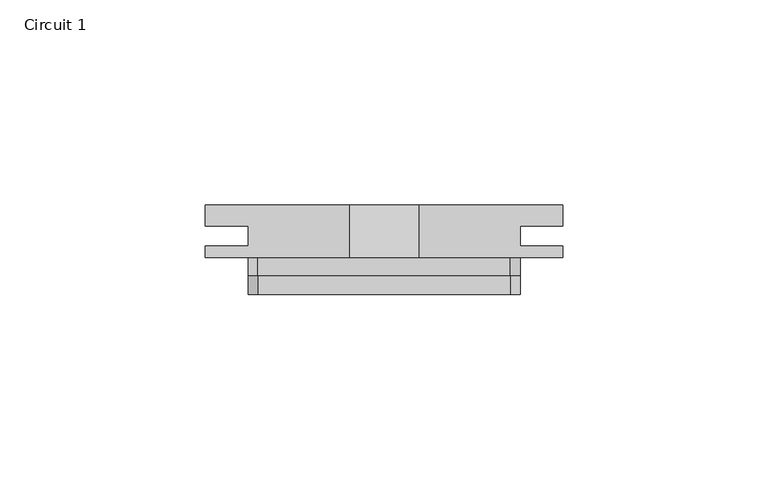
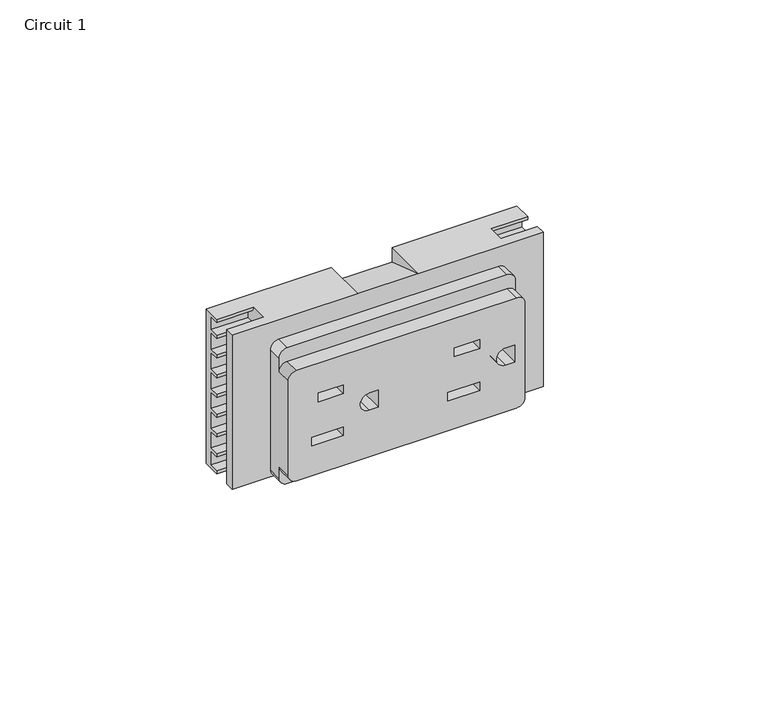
"""IFC4 building model written with IfcOpenShell, lengths in millimetres: furniture geometry, HON - Systems - Accelerate Duplex Receptacles : Circuit 1."""

from ifc_helpers import new_model, si_unit, frame, origin, place, context, project, spatial, polyline, circle_curve, faceted_brep, source, transform, mapped, element, save
from ifc_brep_helpers import plane_surface, cylinder_surface, revolved_surface, advanced_brep


def circuit_1_60441ec7(model_context):
    return source(origin(), model_context, "Body", "SolidModel", [
        faceted_brep([(43.4462126, -14.2112998, 675.3605936), (43.4462126, -9.0804999, 675.3605936), (8.5470999, -9.0804999, 675.3605936), (8.5470999, -21.7928028, 675.3605936), (43.4462126, -21.7928028, 675.3605936), (43.4462126, -19.0372998, 675.3605936), (33.1343011, -19.0372998, 675.3605936), (33.1343011, -14.2112998, 675.3605936), (-43.5229021, -9.0804999, 675.3605936), (-43.5229021, -14.2112998, 675.3605936), (-33.1343011, -14.2112998, 675.3605936), (-33.1343011, -19.0372998, 675.3605936), (-43.5229021, -19.0372998, 675.3605936), (-43.5229021, -21.7928028, 675.3605936), (-8.5217, -21.7928028, 675.3605936), (-8.5217, -9.0804999, 675.3605936), (43.4462126, -21.7928028, 629.6405645), (-43.5229021, -21.7928028, 629.6405645), (-43.5229021, -19.0372998, 629.6405645), (-33.1343011, -19.0372998, 629.6405645), (-33.1343011, -14.2112998, 629.6405645), (-43.5229021, -14.2112998, 629.6405645), (-43.5229021, -9.0804999, 629.6405645), (43.4462126, -9.0804999, 629.6405645), (43.4462126, -14.2112998, 629.6405645), (33.1343011, -14.2112998, 629.6405645), (33.1343011, -19.0372998, 629.6405645), (43.4462126, -19.0372998, 629.6405645), (-8.5217, -9.0804999, 670.9933456), (8.5470999, -9.0804999, 670.9933456), (-43.5229021, -14.2112998, 630.5296091), (-43.5229021, -11.3665005, 630.5296091), (-43.5229021, -11.3665005, 634.6571188), (-43.5229021, -14.2112998, 634.6571188), (-43.5229021, -14.2112998, 635.5460907), (-43.5229021, -11.3665005, 635.5460907), (-43.5229021, -11.3665005, 640.4991314), (-43.5229021, -14.2112998, 640.4991314), (-43.5229021, -14.2112998, 641.3881033), (-43.5229021, -11.3665005, 641.3881033), (-43.5229021, -11.3665005, 646.3410713), (-43.5229021, -14.2112998, 646.3410713), (-43.5229021, -14.2112998, 647.2301159), (-43.5229021, -11.3665005, 647.2301159), (-43.5229021, -11.3665005, 652.1830839), (-43.5229021, -14.2112998, 652.1830839), (-43.5229021, -14.2112998, 653.0721285), (-43.5229021, -11.3665005, 653.0721285), (-43.5229021, -11.3665005, 658.0250965), (-43.5229021, -14.2112998, 658.0250965), (-43.5229021, -14.2112998, 658.9140684), (-43.5229021, -11.3665005, 658.9140684), (-43.5229021, -11.3665005, 663.8671091), (-43.5229021, -14.2112998, 663.8671091), (-43.5229021, -14.2112998, 664.756081), (-43.5229021, -11.3665005, 664.756081), (-43.5229021, -11.3665005, 669.7091217), (-43.5229021, -14.2112998, 669.7091217), (-43.5229021, -14.2112998, 670.5980936), (-43.5229021, -11.3665005, 670.5980936), (-43.5229021, -11.3665005, 674.4716217), (-43.5229021, -14.2112998, 674.4716217), (43.4462126, -14.2112998, 674.4716217), (43.4462126, -11.3665005, 674.4716217), (43.4462126, -11.3665005, 670.5980936), (43.4462126, -14.2112998, 670.5980936), (43.4462126, -14.2112998, 669.7091217), (43.4462126, -11.3665005, 669.7091217), (43.4462126, -11.3665005, 664.756081), (43.4462126, -14.2112998, 664.756081), (43.4462126, -14.2112998, 663.8671091), (43.4462126, -11.3665005, 663.8671091), (43.4462126, -11.3665005, 658.9140684), (43.4462126, -14.2112998, 658.9140684), (43.4462126, -14.2112998, 658.0250965), (43.4462126, -11.3665005, 658.0250965), (43.4462126, -11.3665005, 653.0721285), (43.4462126, -14.2112998, 653.0721285), (43.4462126, -14.2112998, 652.1830839), (43.4462126, -11.3665005, 652.1830839), (43.4462126, -11.3665005, 647.2301159), (43.4462126, -14.2112998, 647.2301159), (43.4462126, -14.2112998, 646.3410713), (43.4462126, -11.3665005, 646.3410713), (43.4462126, -11.3665005, 641.3881033), (43.4462126, -14.2112998, 641.3881033), (43.4462126, -14.2112998, 640.4991314), (43.4462126, -11.3665005, 640.4991314), (43.4462126, -11.3665005, 635.5460907), (43.4462126, -14.2112998, 635.5460907), (43.4462126, -14.2112998, 634.6571188), (43.4462126, -11.3665005, 634.6571188), (43.4462126, -11.3665005, 630.5296091), (43.4462126, -14.2112998, 630.5296091), (33.1343011, -14.2112998, 630.5296091), (33.1343011, -11.3665005, 630.5296091), (33.1343011, -11.3665005, 634.6571188), (33.1343011, -14.2112998, 634.6571188), (33.1343011, -14.2112998, 635.5460907), (33.1343011, -11.3665005, 635.5460907), (33.1343011, -11.3665005, 640.4991314), (33.1343011, -14.2112998, 640.4991314), (33.1343011, -14.2112998, 641.3881033), (33.1343011, -11.3665005, 641.3881033), (33.1343011, -11.3665005, 646.3410713), (33.1343011, -14.2112998, 646.3410713), (33.1343011, -14.2112998, 647.2301159), (33.1343011, -11.3665005, 647.2301159), (33.1343011, -11.3665005, 652.1830839), (33.1343011, -14.2112998, 652.1830839), (33.1343011, -14.2112998, 653.0721285), (33.1343011, -11.3665005, 653.0721285), (33.1343011, -11.3665005, 658.0250965), (33.1343011, -14.2112998, 658.0250965), (33.1343011, -14.2112998, 658.9140684), (33.1343011, -11.3665005, 658.9140684), (33.1343011, -11.3665005, 663.8671091), (33.1343011, -14.2112998, 663.8671091), (33.1343011, -14.2112998, 664.756081), (33.1343011, -11.3665005, 664.756081), (33.1343011, -11.3665005, 669.7091217), (33.1343011, -14.2112998, 669.7091217), (33.1343011, -14.2112998, 670.5980936), (33.1343011, -11.3665005, 670.5980936), (33.1343011, -11.3665005, 674.4716217), (33.1343011, -14.2112998, 674.4716217), (-33.1343011, -14.2112998, 674.4716217), (-33.1343011, -11.3665005, 674.4716217), (-33.1343011, -11.3665005, 670.5980936), (-33.1343011, -14.2112998, 670.5980936), (-33.1343011, -14.2112998, 669.7091217), (-33.1343011, -11.3665005, 669.7091217), (-33.1343011, -11.3665005, 664.756081), (-33.1343011, -14.2112998, 664.756081), (-33.1343011, -14.2112998, 663.8671091), (-33.1343011, -11.3665005, 663.8671091), (-33.1343011, -11.3665005, 658.9140684), (-33.1343011, -14.2112998, 658.9140684), (-33.1343011, -14.2112998, 658.0250965), (-33.1343011, -11.3665005, 658.0250965), (-33.1343011, -11.3665005, 653.0721285), (-33.1343011, -14.2112998, 653.0721285), (-33.1343011, -14.2112998, 652.1830839), (-33.1343011, -11.3665005, 652.1830839), (-33.1343011, -11.3665005, 647.2301159), (-33.1343011, -14.2112998, 647.2301159), (-33.1343011, -14.2112998, 646.3410713), (-33.1343011, -11.3665005, 646.3410713), (-33.1343011, -11.3665005, 641.3881033), (-33.1343011, -14.2112998, 641.3881033), (-33.1343011, -14.2112998, 640.4991314), (-33.1343011, -11.3665005, 640.4991314), (-33.1343011, -11.3665005, 635.5460907), (-33.1343011, -14.2112998, 635.5460907), (-33.1343011, -14.2112998, 634.6571188), (-33.1343011, -11.3665005, 634.6571188), (-33.1343011, -11.3665005, 630.5296091), (-33.1343011, -14.2112998, 630.5296091)], [[[0, 1, 2, 3, 4, 5, 6, 7]], [[8, 9, 10, 11, 12, 13, 14, 15]], [[16, 17, 18, 19, 20, 21, 22, 23, 24, 25, 26, 27]], [[23, 22, 8, 15, 28, 29, 2, 1]], [[8, 22, 21, 30, 31, 32, 33, 34, 35, 36, 37, 38, 39, 40, 41, 42, 43, 44, 45, 46, 47, 48, 49, 50, 51, 52, 53, 54, 55, 56, 57, 58, 59, 60, 61, 9]], [[17, 13, 12, 18]], [[17, 16, 4, 3, 14, 13]], [[23, 1, 0, 62, 63, 64, 65, 66, 67, 68, 69, 70, 71, 72, 73, 74, 75, 76, 77, 78, 79, 80, 81, 82, 83, 84, 85, 86, 87, 88, 89, 90, 91, 92, 93, 24]], [[4, 16, 27, 5]], [[94, 95, 96, 97, 98, 99, 100, 101, 102, 103, 104, 105, 106, 107, 108, 109, 110, 111, 112, 113, 114, 115, 116, 117, 118, 119, 120, 121, 122, 123, 124, 125, 7, 6, 26, 25]], [[94, 25, 24, 93]], [[95, 94, 93, 92]], [[96, 95, 92, 91]], [[97, 96, 91, 90]], [[98, 97, 90, 89]], [[99, 98, 89, 88]], [[100, 99, 88, 87]], [[101, 100, 87, 86]], [[102, 101, 86, 85]], [[103, 102, 85, 84]], [[104, 103, 84, 83]], [[105, 104, 83, 82]], [[106, 105, 82, 81]], [[107, 106, 81, 80]], [[108, 107, 80, 79]], [[109, 108, 79, 78]], [[110, 109, 78, 77]], [[111, 110, 77, 76]], [[112, 111, 76, 75]], [[113, 112, 75, 74]], [[114, 113, 74, 73]], [[115, 114, 73, 72]], [[116, 115, 72, 71]], [[117, 116, 71, 70]], [[118, 117, 70, 69]], [[119, 118, 69, 68]], [[120, 119, 68, 67]], [[121, 120, 67, 66]], [[122, 121, 66, 65]], [[123, 122, 65, 64]], [[124, 123, 64, 63]], [[125, 124, 63, 62]], [[7, 125, 62, 0]], [[26, 6, 5, 27]], [[126, 127, 128, 129, 130, 131, 132, 133, 134, 135, 136, 137, 138, 139, 140, 141, 142, 143, 144, 145, 146, 147, 148, 149, 150, 151, 152, 153, 154, 155, 156, 157, 20, 19, 11, 10]], [[20, 157, 30, 21]], [[157, 156, 31, 30]], [[156, 155, 32, 31]], [[155, 154, 33, 32]], [[154, 153, 34, 33]], [[153, 152, 35, 34]], [[152, 151, 36, 35]], [[151, 150, 37, 36]], [[150, 149, 38, 37]], [[149, 148, 39, 38]], [[148, 147, 40, 39]], [[147, 146, 41, 40]], [[146, 145, 42, 41]], [[145, 144, 43, 42]], [[144, 143, 44, 43]], [[143, 142, 45, 44]], [[142, 141, 46, 45]], [[141, 140, 47, 46]], [[140, 139, 48, 47]], [[139, 138, 49, 48]], [[138, 137, 50, 49]], [[137, 136, 51, 50]], [[136, 135, 52, 51]], [[135, 134, 53, 52]], [[134, 133, 54, 53]], [[133, 132, 55, 54]], [[132, 131, 56, 55]], [[131, 130, 57, 56]], [[130, 129, 58, 57]], [[129, 128, 59, 58]], [[128, 127, 60, 59]], [[127, 126, 61, 60]], [[126, 10, 9, 61]], [[11, 19, 18, 12]], [[29, 3, 2]], [[14, 28, 15]], [[3, 29, 28, 14]]]),
        advanced_brep(
        [(33.1343011, -30.7975002, 635.4825976), (33.1343011, -30.7975002, 663.4987972), (30.848301, -30.7975002, 665.7847973), (-30.8229006, -30.7975002, 665.7847973), (-33.1089007, -30.7975002, 663.4987972), (-33.1089007, -30.7975002, 635.4825976), (-30.8229006, -30.7975002, 633.1965975), (30.848301, -30.7975002, 633.1965975), (-17.6657004, -30.7975002, 657.0218147), (-17.6657004, -30.7975002, 654.4817808), (-24.7777004, -30.7975002, 654.4817808), (-24.7777004, -30.7975002, 657.0218147), (-17.6657004, -30.7975002, 644.499614), (-17.6657004, -30.7975002, 641.95958), (-26.555701, -30.7975002, 641.95958), (-26.555701, -30.7975002, 644.499614), (20.4342996, -30.7975002, 644.499614), (20.4342996, -30.7975002, 641.95958), (11.5443001, -30.7975002, 641.95958), (11.5443001, -30.7975002, 644.499614), (20.4342996, -30.7975002, 657.0218147), (20.4342996, -30.7975002, 654.4817808), (13.3222996, -30.7975002, 654.4817808), (13.3222996, -30.7975002, 657.0218147), (-7.8486, -30.7975002, 646.9506998), (-10.3885999, -30.7975002, 646.9506998), (-10.3885999, -30.7975002, 652.030695), (-7.8486, -30.7975002, 652.030695), (30.3047409, -30.7975002, 646.9506998), (27.764741, -30.7975002, 646.9506998), (27.764741, -30.7975002, 652.030695), (30.3047409, -30.7975002, 652.030695), (6.5912997, -21.8097791, 629.6405645), (4.9403002, -21.8097791, 631.2916265), (-4.9148997, -21.8097791, 631.2916265), (-6.5658999, -21.8097791, 629.6405645), (-30.766319, -21.8097791, 629.6405645), (-33.1089007, -21.8097791, 631.9831462), (-33.1089007, -21.8097791, 667.5226532), (-30.7319642, -21.8097791, 669.8995897), (30.7248429, -21.8097791, 669.8995897), (33.1343011, -21.8097791, 667.4901315), (33.1343011, -21.8097791, 631.9582923), (30.8165733, -21.8097791, 629.6405645), (-17.6657004, -21.8097791, 657.0218147), (-24.7777004, -21.8097791, 657.0218147), (-24.7777004, -21.8097791, 654.4817808), (-17.6657004, -21.8097791, 654.4817808), (-17.6657004, -21.8097791, 644.499614), (-26.555701, -21.8097791, 644.499614), (-26.555701, -21.8097791, 641.95958), (-17.6657004, -21.8097791, 641.95958), (20.4342996, -21.8097791, 644.499614), (11.5443001, -21.8097791, 644.499614), (11.5443001, -21.8097791, 641.95958), (20.4342996, -21.8097791, 641.95958), (20.4342996, -21.8097791, 657.0218147), (13.3222996, -21.8097791, 657.0218147), (13.3222996, -21.8097791, 654.4817808), (20.4342996, -21.8097791, 654.4817808), (-7.8486, -21.8097791, 646.9506998), (-7.8486, -21.8097791, 652.030695), (-10.3885999, -21.8097791, 652.030695), (-10.3885999, -21.8097791, 646.9506998), (30.3047409, -21.8097791, 646.9506998), (30.3047409, -21.8097791, 652.030695), (27.764741, -21.8097791, 652.030695), (27.764741, -21.8097791, 646.9506998), (30.8165733, -26.2255, 629.6405645), (6.5912997, -26.2255, 629.6405645), (33.1343011, -26.2255, 631.9582923), (33.1343011, -26.2255, 667.4901315), (33.1343011, -26.2255, 663.4987972), (33.1343011, -26.2255, 635.4825976), (30.7248429, -26.2255, 669.8995897), (-30.7319642, -26.2255, 669.8995897), (-33.1089007, -26.2255, 667.5226532), (-33.1089007, -26.2255, 631.9831462), (-33.1089007, -26.2255, 635.4825976), (-33.1089007, -26.2255, 663.4987972), (-30.766319, -26.2255, 629.6405645), (-6.5658999, -26.2255, 629.6405645), (-4.9148997, -26.2255, 631.2916265), (4.9403002, -26.2255, 631.2916265), (30.848301, -26.2255, 665.7847973), (-30.8229006, -26.2255, 665.7847973), (-30.8229006, -26.2255, 633.1965975), (30.848301, -26.2255, 633.1965975)],
        [
            (0, 1),
            (1, 2, circle_curve(frame((30.848301, -30.7975002, 663.4987972), z_axis=(0.0, -1.0, 0.0), x_axis=(1.0, 0.0, 0.0)), 2.2860001)),
            (2, 3),
            (3, 4, circle_curve(frame((-30.8229006, -30.7975002, 663.4987972), z_axis=(0.0, -1.0, 0.0), x_axis=(1.0, 0.0, 0.0)), 2.2860001)),
            (4, 5),
            (5, 6, circle_curve(frame((-30.8229006, -30.7975002, 635.4825976), z_axis=(0.0, -1.0, 0.0), x_axis=(1.0, 0.0, 0.0)), 2.2860001)),
            (6, 7),
            (7, 0, circle_curve(frame((30.848301, -30.7975002, 635.4825976), z_axis=(0.0, -1.0, 0.0), x_axis=(1.0, 0.0, 0.0)), 2.2860001)),
            (8, 9),
            (9, 10),
            (10, 11),
            (11, 8),
            (12, 13),
            (13, 14),
            (14, 15),
            (15, 12),
            (16, 17),
            (17, 18),
            (18, 19),
            (19, 16),
            (20, 21),
            (21, 22),
            (22, 23),
            (23, 20),
            (24, 25),
            (25, 26, circle_curve(frame((-10.3885999, -30.7975002, 649.4906974), z_axis=(0.0, 1.0, 0.0), x_axis=(1.0, 0.0, 0.0)), 2.5399976)),
            (26, 27),
            (27, 24),
            (28, 29),
            (29, 30, circle_curve(frame((27.764741, -30.7975002, 649.4906974), z_axis=(0.0, 1.0, 0.0), x_axis=(1.0, 0.0, 0.0)), 2.5399976)),
            (30, 31),
            (31, 28),
            (32, 33),
            (33, 34),
            (34, 35),
            (35, 36),
            (36, 37, circle_curve(frame((-30.766319, -21.8097791, 631.9831462), z_axis=(0.0, 1.0, 0.0), x_axis=(1.0, 0.0, 0.0)), 2.3425817)),
            (37, 38),
            (38, 39, circle_curve(frame((-30.7319642, -21.8097791, 667.5226532), z_axis=(0.0, 1.0, 0.0), x_axis=(1.0, 0.0, 0.0)), 2.3769365)),
            (39, 40),
            (40, 41, circle_curve(frame((30.7248429, -21.8097791, 667.4901315), z_axis=(0.0, 1.0, 0.0), x_axis=(1.0, 0.0, 0.0)), 2.4094582)),
            (41, 42),
            (42, 43, circle_curve(frame((30.8165733, -21.8097791, 631.9582923), z_axis=(0.0, 1.0, 0.0), x_axis=(1.0, 0.0, 0.0)), 2.3177278)),
            (43, 32),
            (44, 45),
            (45, 46),
            (46, 47),
            (47, 44),
            (48, 49),
            (49, 50),
            (50, 51),
            (51, 48),
            (52, 53),
            (53, 54),
            (54, 55),
            (55, 52),
            (56, 57),
            (57, 58),
            (58, 59),
            (59, 56),
            (60, 61),
            (61, 62),
            (62, 63, circle_curve(frame((-10.3885999, -21.8097791, 649.4906974), z_axis=(0.0, -1.0, 0.0), x_axis=(1.0, 0.0, 0.0)), 2.5399976)),
            (63, 60),
            (64, 65),
            (65, 66),
            (66, 67, circle_curve(frame((27.764741, -21.8097791, 649.4906974), z_axis=(0.0, -1.0, 0.0), x_axis=(1.0, 0.0, 0.0)), 2.5399976)),
            (67, 64),
            (43, 68),
            (68, 69),
            (69, 32),
            (42, 70),
            (70, 68, circle_curve(frame((30.8165733, -26.2255, 631.9582923), z_axis=(0.0, 1.0, 0.0), x_axis=(1.0, 0.0, 0.0)), 2.3177278)),
            (41, 71),
            (71, 72),
            (72, 1),
            (0, 73),
            (73, 70),
            (40, 74),
            (74, 71, circle_curve(frame((30.7248429, -26.2255, 667.4901315), z_axis=(0.0, 1.0, 0.0), x_axis=(1.0, 0.0, 0.0)), 2.4094582)),
            (39, 75),
            (75, 74),
            (38, 76),
            (76, 75, circle_curve(frame((-30.7319642, -26.2255, 667.5226532), z_axis=(0.0, 1.0, 0.0), x_axis=(1.0, 0.0, 0.0)), 2.3769365)),
            (37, 77),
            (77, 78),
            (78, 5),
            (4, 79),
            (79, 76),
            (36, 80),
            (80, 77, circle_curve(frame((-30.766319, -26.2255, 631.9831462), z_axis=(0.0, 1.0, 0.0), x_axis=(1.0, 0.0, 0.0)), 2.3425817)),
            (35, 81),
            (81, 80),
            (34, 82),
            (82, 81),
            (33, 83),
            (83, 82),
            (69, 83),
            (8, 44),
            (47, 9),
            (46, 10),
            (45, 11),
            (12, 48),
            (51, 13),
            (50, 14),
            (49, 15),
            (16, 52),
            (55, 17),
            (54, 18),
            (53, 19),
            (20, 56),
            (59, 21),
            (58, 22),
            (57, 23),
            (24, 60),
            (63, 25),
            (62, 26),
            (61, 27),
            (28, 64),
            (67, 29),
            (66, 30),
            (65, 31),
            (84, 72, circle_curve(frame((30.848301, -26.2255, 663.4987972), z_axis=(0.0, 1.0, 0.0), x_axis=(1.0, 0.0, 0.0)), 2.2860001)),
            (79, 85, circle_curve(frame((-30.8229006, -26.2255, 663.4987972), z_axis=(0.0, 1.0, 0.0), x_axis=(1.0, 0.0, 0.0)), 2.2860001)),
            (85, 84),
            (86, 78, circle_curve(frame((-30.8229006, -26.2255, 635.4825976), z_axis=(0.0, 1.0, 0.0), x_axis=(1.0, 0.0, 0.0)), 2.2860001)),
            (73, 87, circle_curve(frame((30.848301, -26.2255, 635.4825976), z_axis=(0.0, 1.0, 0.0), x_axis=(1.0, 0.0, 0.0)), 2.2860001)),
            (87, 86),
            (84, 2),
            (3, 85),
            (86, 6),
            (7, 87),
        ],
        [
            plane_surface(frame((30.848301, -30.7975002, 629.6405645), z_axis=(0.0, -1.0, 0.0), x_axis=(1.0, 0.0, 0.0))),
            plane_surface(frame((30.848301, -21.8097791, 629.6405645), z_axis=(0.0, 1.0, 0.0), x_axis=(-1.0, 0.0, 0.0))),
            plane_surface(frame((6.5912997, -30.7975002, 629.6405645), z_axis=(0.0, 0.0, -1.0), x_axis=(0.0, 1.0, 0.0))),
            cylinder_surface(frame((30.8165733, -21.8097791, 631.9582923), z_axis=(0.0, -1.0, 0.0), x_axis=(1.0, 0.0, 0.0)), 2.3177278),
            plane_surface(frame((33.1343011, -30.7975002, 631.9582923), z_axis=(1.0, 0.0, 0.0), x_axis=(0.0, 1.0, 0.0))),
            cylinder_surface(frame((30.7248429, -21.8097791, 667.4901315), z_axis=(0.0, -1.0, 0.0), x_axis=(1.0, 0.0, 0.0)), 2.4094582),
            plane_surface(frame((30.7248429, -30.7975002, 669.8995897), z_axis=(0.0, 0.0, 1.0), x_axis=(0.0, 1.0, 0.0))),
            cylinder_surface(frame((-30.7319642, -21.8097791, 667.5226532), z_axis=(0.0, -1.0, 0.0), x_axis=(1.0, 0.0, 0.0)), 2.3769365),
            plane_surface(frame((-33.1089007, -30.7975002, 667.5226532), z_axis=(-1.0, 0.0, 0.0), x_axis=(0.0, 1.0, 0.0))),
            cylinder_surface(frame((-30.766319, -21.8097791, 631.9831462), z_axis=(0.0, -1.0, 0.0), x_axis=(1.0, 0.0, 0.0)), 2.3425817),
            plane_surface(frame((-30.766319, -30.7975002, 629.6405645), z_axis=(0.0, 0.0, -1.0), x_axis=(0.0, 1.0, 0.0))),
            plane_surface(frame((-6.5658999, -30.7975002, 629.6405645), z_axis=(0.7071200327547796, 0.0, -0.7070935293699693), x_axis=(0.0, 1.0, 0.0))),
            plane_surface(frame((-4.9148997, -30.7975002, 631.2916265), z_axis=(0.0, 0.0, -1.0), x_axis=(0.0, 1.0, 0.0))),
            plane_surface(frame((4.9403002, -30.7975002, 631.2916265), z_axis=(-0.7071201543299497, 0.0, -0.7070934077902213), x_axis=(0.0, 1.0, 0.0))),
            plane_surface(frame((-17.6657004, -30.7975002, 657.0218147), z_axis=(-1.0, 0.0, 0.0), x_axis=(0.0, 1.0, 0.0))),
            plane_surface(frame((-17.6657004, -30.7975002, 654.4817808), z_axis=(0.0, 0.0, 1.0), x_axis=(0.0, 1.0, 0.0))),
            plane_surface(frame((-24.7777004, -30.7975002, 654.4817808), z_axis=(1.0, 0.0, 0.0), x_axis=(0.0, 1.0, 0.0))),
            plane_surface(frame((-24.7777004, -30.7975002, 657.0218147), z_axis=(0.0, 0.0, -1.0), x_axis=(0.0, 1.0, 0.0))),
            plane_surface(frame((-17.6657004, -30.7975002, 644.499614), z_axis=(-1.0, 0.0, 0.0), x_axis=(0.0, 1.0, 0.0))),
            plane_surface(frame((-17.6657004, -30.7975002, 641.95958), z_axis=(0.0, 0.0, 1.0), x_axis=(0.0, 1.0, 0.0))),
            plane_surface(frame((-26.555701, -30.7975002, 641.95958), z_axis=(1.0, 0.0, 0.0), x_axis=(0.0, 1.0, 0.0))),
            plane_surface(frame((-26.555701, -30.7975002, 644.499614), z_axis=(0.0, 0.0, -1.0), x_axis=(0.0, 1.0, 0.0))),
            plane_surface(frame((20.4342996, -30.7975002, 644.499614), z_axis=(-1.0, 0.0, 0.0), x_axis=(0.0, 1.0, 0.0))),
            plane_surface(frame((20.4342996, -30.7975002, 641.95958), z_axis=(0.0, 0.0, 1.0), x_axis=(0.0, 1.0, 0.0))),
            plane_surface(frame((11.5443001, -30.7975002, 641.95958), z_axis=(1.0, 0.0, 0.0), x_axis=(0.0, 1.0, 0.0))),
            plane_surface(frame((11.5443001, -30.7975002, 644.499614), z_axis=(0.0, 0.0, -1.0), x_axis=(0.0, 1.0, 0.0))),
            plane_surface(frame((20.4342996, -30.7975002, 657.0218147), z_axis=(-1.0, 0.0, 0.0), x_axis=(0.0, 1.0, 0.0))),
            plane_surface(frame((20.4342996, -30.7975002, 654.4817808), z_axis=(0.0, 0.0, 1.0), x_axis=(0.0, 1.0, 0.0))),
            plane_surface(frame((13.3222996, -30.7975002, 654.4817808), z_axis=(1.0, 0.0, 0.0), x_axis=(0.0, 1.0, 0.0))),
            plane_surface(frame((13.3222996, -30.7975002, 657.0218147), z_axis=(0.0, 0.0, -1.0), x_axis=(0.0, 1.0, 0.0))),
            plane_surface(frame((-7.8486, -30.7975002, 646.9506998), z_axis=(0.0, 0.0, 1.0), x_axis=(0.0, 1.0, 0.0))),
            revolved_surface(polyline([(-7.848602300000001, -21.8097791, 649.4906974), (-7.848602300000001, -30.7975002, 649.4906974)]), (-10.3885999, 0.0, 649.4906974), (0.0, 1.0, 0.0)),
            plane_surface(frame((-10.3885999, -30.7975002, 652.030695), z_axis=(0.0, 0.0, -1.0), x_axis=(0.0, 1.0, 0.0))),
            plane_surface(frame((-7.8486, -30.7975002, 652.030695), z_axis=(-1.0, 0.0, 0.0), x_axis=(0.0, 1.0, 0.0))),
            plane_surface(frame((30.3047409, -30.7975002, 646.9506998), z_axis=(0.0, 0.0, 1.0), x_axis=(0.0, 1.0, 0.0))),
            revolved_surface(polyline([(30.3047386, -21.8097791, 649.4906974), (30.3047386, -30.7975002, 649.4906974)]), (27.764741, 0.0, 649.4906974), (0.0, 1.0, 0.0)),
            plane_surface(frame((27.764741, -30.7975002, 652.030695), z_axis=(0.0, 0.0, -1.0), x_axis=(0.0, 1.0, 0.0))),
            plane_surface(frame((30.3047409, -30.7975002, 652.030695), z_axis=(-1.0, 0.0, 0.0), x_axis=(0.0, 1.0, 0.0))),
            plane_surface(frame((33.1343011, -26.2255, 663.4987972), z_axis=(0.0, -1.0, 0.0), x_axis=(0.0, 0.0, 1.0))),
            cylinder_surface(frame((30.848301, -26.2255, 663.4987972), z_axis=(0.0, 1.0, 0.0), x_axis=(1.0, 0.0, 0.0)), 2.2860001),
            cylinder_surface(frame((-30.8229006, -26.2255, 663.4987972), z_axis=(0.0, 1.0, 0.0), x_axis=(1.0, 0.0, 0.0)), 2.2860001),
            plane_surface(frame((-30.8229006, -45.0298289, 665.7847973), z_axis=(0.0, 0.0, 1.0), x_axis=(0.0, 1.0, 0.0))),
            cylinder_surface(frame((-30.8229006, 0.0, 635.4825976), z_axis=(0.0, 1.0, 0.0), x_axis=(1.0, 0.0, 0.0)), 2.2860001),
            cylinder_surface(frame((30.848301, 0.0, 635.4825976), z_axis=(0.0, 1.0, 0.0), x_axis=(1.0, 0.0, 0.0)), 2.2860001),
            plane_surface(frame((30.848301, -45.0298289, 633.1965975), z_axis=(0.0, 0.0, -1.0), x_axis=(0.0, 1.0, 0.0))),
        ],
        [
            (0, [[1, 2, 3, 4, 5, 6, 7, 8], [9, 10, 11, 12], [13, 14, 15, 16], [17, 18, 19, 20], [21, 22, 23, 24], [25, 26, 27, 28], [29, 30, 31, 32]]),
            (1, [[33, 34, 35, 36, 37, 38, 39, 40, 41, 42, 43, 44], [45, 46, 47, 48], [49, 50, 51, 52], [53, 54, 55, 56], [57, 58, 59, 60], [61, 62, 63, 64], [65, 66, 67, 68]]),
            (2, [[-44, 69, 70, 71]]),
            (3, [[-43, 72, 73, -69]]),
            (4, [[-42, 74, 75, 76, -1, 77, 78, -72]]),
            (5, [[-41, 79, 80, -74]]),
            (6, [[-40, 81, 82, -79]]),
            (7, [[-39, 83, 84, -81]]),
            (8, [[-38, 85, 86, 87, -5, 88, 89, -83]]),
            (9, [[-37, 90, 91, -85]]),
            (10, [[-36, 92, 93, -90]]),
            (11, [[-35, 94, 95, -92]]),
            (12, [[-34, 96, 97, -94]]),
            (13, [[-33, -71, 98, -96]]),
            (14, [[-9, 99, -48, 100]]),
            (15, [[-10, -100, -47, 101]]),
            (16, [[-11, -101, -46, 102]]),
            (17, [[-12, -102, -45, -99]]),
            (18, [[-13, 103, -52, 104]]),
            (19, [[-14, -104, -51, 105]]),
            (20, [[-15, -105, -50, 106]]),
            (21, [[-16, -106, -49, -103]]),
            (22, [[-17, 107, -56, 108]]),
            (23, [[-18, -108, -55, 109]]),
            (24, [[-19, -109, -54, 110]]),
            (25, [[-20, -110, -53, -107]]),
            (26, [[-21, 111, -60, 112]]),
            (27, [[-22, -112, -59, 113]]),
            (28, [[-23, -113, -58, 114]]),
            (29, [[-24, -114, -57, -111]]),
            (30, [[-25, 115, -64, 116]]),
            (31, [[-26, -116, -63, 117]]),
            (32, [[-27, -117, -62, 118]]),
            (33, [[-28, -118, -61, -115]]),
            (34, [[-29, 119, -68, 120]]),
            (35, [[-30, -120, -67, 121]]),
            (36, [[-31, -121, -66, 122]]),
            (37, [[-32, -122, -65, -119]]),
            (38, [[123, -75, -80, -82, -84, -89, 124, 125]]),
            (38, [[126, -86, -91, -93, -95, -97, -98, -70, -73, -78, 127, 128]]),
            (39, [[-123, 129, -2, -76]]),
            (40, [[-124, -88, -4, 130]]),
            (41, [[-125, -130, -3, -129]]),
            (42, [[-126, 131, -6, -87]]),
            (43, [[-127, -77, -8, 132]]),
            (44, [[-128, -132, -7, -131]]),
        ],
    ),
    ])


if __name__ == "__main__":
    model = new_model("IFC4")
    model_context = context("Model", 3, world=origin())
    ifc_project = project(units=[si_unit("LENGTHUNIT", "METRE", prefix="MILLI")], contexts=[model_context])
    site = spatial("IfcSite", under=ifc_project)
    building = spatial("IfcBuilding", under=site)
    placement = place(None, origin())
    circuit_1_shape = circuit_1_60441ec7(model_context)
    element("IfcFurniture", 1, ObjectType="HON - Systems - Accelerate Duplex Receptacles : Circuit 1", at=placement, inside=building, context=model_context, shape_type="MappedRepresentation", body=[
        mapped(circuit_1_shape, transform((0.0, 0.0, 0.0), x_axis=(1.0, 0.0, 0.0), y_axis=(0.0, 1.0, 0.0), z_axis=(0.0, 0.0, 1.0))),
    ])
    save(model, "model.ifc")
